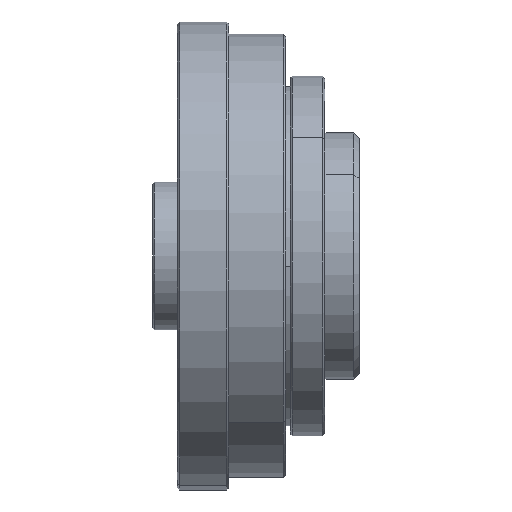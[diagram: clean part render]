
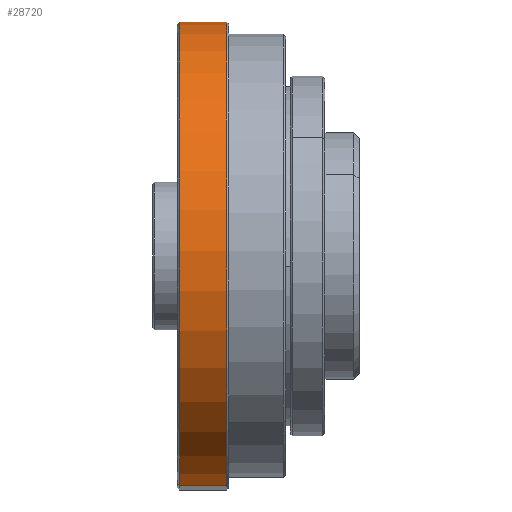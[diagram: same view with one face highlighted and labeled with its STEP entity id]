
A CAD part, front view. The second image highlights one B-rep face of the part: STEP entity #28720.
In plain terms, the highlighted cylindrical face has radius 47.5 mm (diameter 95 mm), a partial arc.
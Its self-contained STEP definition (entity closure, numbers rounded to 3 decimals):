
#968 = EDGE_CURVE ( 'NONE', #15203, #30975, #3702, .T. ) ;
#1004 = CARTESIAN_POINT ( 'NONE',  ( 0., 0., 47.5 ) ) ;
#3009 = ORIENTED_EDGE ( 'NONE', *, *, #15843, .F. ) ;
#3411 = CARTESIAN_POINT ( 'NONE',  ( 3.577, 0., 47.5 ) ) ;
#3687 = VERTEX_POINT ( 'NONE', #25433 ) ;
#3702 = LINE ( 'NONE', #26918, #24977 ) ;
#4626 = CIRCLE ( 'NONE', #28353, 47.5 ) ;
#6199 = DIRECTION ( 'NONE',  ( 0., 0., 1. ) ) ;
#7953 = CARTESIAN_POINT ( 'NONE',  ( 3.577, 0., 0. ) ) ;
#7955 = CARTESIAN_POINT ( 'NONE',  ( 3.577, 0., -47.5 ) ) ;
#8397 = EDGE_LOOP ( 'NONE', ( #32152, #31539, #16781, #3009 ) ) ;
#10294 = EDGE_CURVE ( 'NONE', #15203, #3687, #28345, .T. ) ;
#10518 = DIRECTION ( 'NONE',  ( 0., 0., 1. ) ) ;
#10787 = CYLINDRICAL_SURFACE ( 'NONE', #18603, 47.5 ) ;
#11082 = CARTESIAN_POINT ( 'NONE',  ( 13.177, 0., -47.5 ) ) ;
#12740 = CARTESIAN_POINT ( 'NONE',  ( 13.177, 0., 0. ) ) ;
#13960 = VERTEX_POINT ( 'NONE', #3411 ) ;
#15203 = VERTEX_POINT ( 'NONE', #11082 ) ;
#15322 = DIRECTION ( 'NONE',  ( 0., 0., 1. ) ) ;
#15843 = EDGE_CURVE ( 'NONE', #30975, #13960, #4626, .T. ) ;
#16365 = DIRECTION ( 'NONE',  ( -1., 0., 0. ) ) ;
#16781 = ORIENTED_EDGE ( 'NONE', *, *, #21982, .T. ) ;
#18603 = AXIS2_PLACEMENT_3D ( 'NONE', #21553, #29193, #6199 ) ;
#19140 = DIRECTION ( 'NONE',  ( -1., 0., 0. ) ) ;
#21553 = CARTESIAN_POINT ( 'NONE',  ( 0., 0., 0. ) ) ;
#21982 = EDGE_CURVE ( 'NONE', #3687, #13960, #33194, .T. ) ;
#24451 = FACE_OUTER_BOUND ( 'NONE', #8397, .T. ) ;
#24977 = VECTOR ( 'NONE', #19140, 1000. ) ;
#25433 = CARTESIAN_POINT ( 'NONE',  ( 13.177, 0., 47.5 ) ) ;
#25915 = DIRECTION ( 'NONE',  ( -1., 0., 0. ) ) ;
#26918 = CARTESIAN_POINT ( 'NONE',  ( 0., 0., -47.5 ) ) ;
#28345 = CIRCLE ( 'NONE', #30204, 47.5 ) ;
#28353 = AXIS2_PLACEMENT_3D ( 'NONE', #7953, #25915, #10518 ) ;
#28720 = ADVANCED_FACE ( 'NONE', ( #24451 ), #10787, .T. ) ;
#29193 = DIRECTION ( 'NONE',  ( -1., 0., 0. ) ) ;
#30204 = AXIS2_PLACEMENT_3D ( 'NONE', #12740, #30704, #15322 ) ;
#30704 = DIRECTION ( 'NONE',  ( -1., 0., 0. ) ) ;
#30975 = VERTEX_POINT ( 'NONE', #7955 ) ;
#31539 = ORIENTED_EDGE ( 'NONE', *, *, #10294, .T. ) ;
#32152 = ORIENTED_EDGE ( 'NONE', *, *, #968, .F. ) ;
#32380 = VECTOR ( 'NONE', #16365, 1000. ) ;
#33194 = LINE ( 'NONE', #1004, #32380 ) ;
